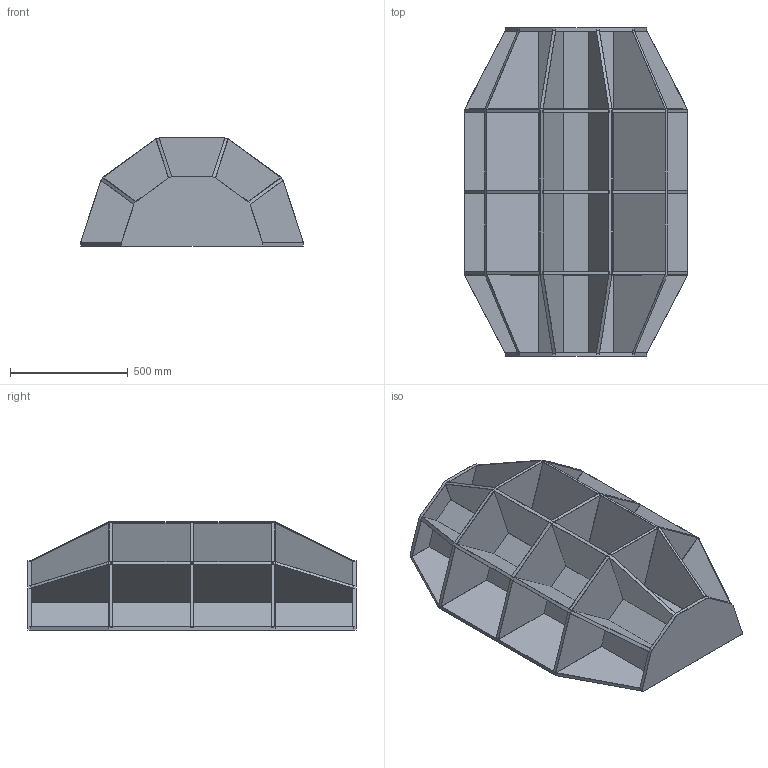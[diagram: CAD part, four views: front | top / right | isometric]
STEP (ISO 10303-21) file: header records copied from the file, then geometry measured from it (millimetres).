
FILE_DESCRIPTION (( 'STEP AP203' ), '1' );
FILE_NAME ('HAKU BOOKSHELF.STEP', '2023-03-21T12:34:56', ( '' ), ( '' ), 'SwSTEP 2.0', 'SolidWorks 2023', '' );
FILE_SCHEMA (( 'CONFIG_CONTROL_DESIGN' ));
Length unit declared in the file: millimetre
Products named in the file (2): HAKU BOOKSHELF; Group1^HAKU BOOKSHELF
Assembly tree (1 placements, depth 2):
  HAKU BOOKSHELF
    Group1^HAKU BOOKSHELF
Bounding box: 946.7 x 1395 x 460 mm (x, y, z)
Volume: 56495731.5 mm3; surface area: 8377925.2 mm2
Topology: 28 solids, 28 shells, 628 faces, 1632 edges, 1060 vertices
Faces by surface type: plane 588, cylinder 40
Entity records: 18906 total; most frequent: CARTESIAN_POINT 3324, ORIENTED_EDGE 3264, DIRECTION 2976, EDGE_CURVE 1632, VECTOR 1552, LINE 1552, VERTEX_POINT 1060, AXIS2_PLACEMENT_3D 712
